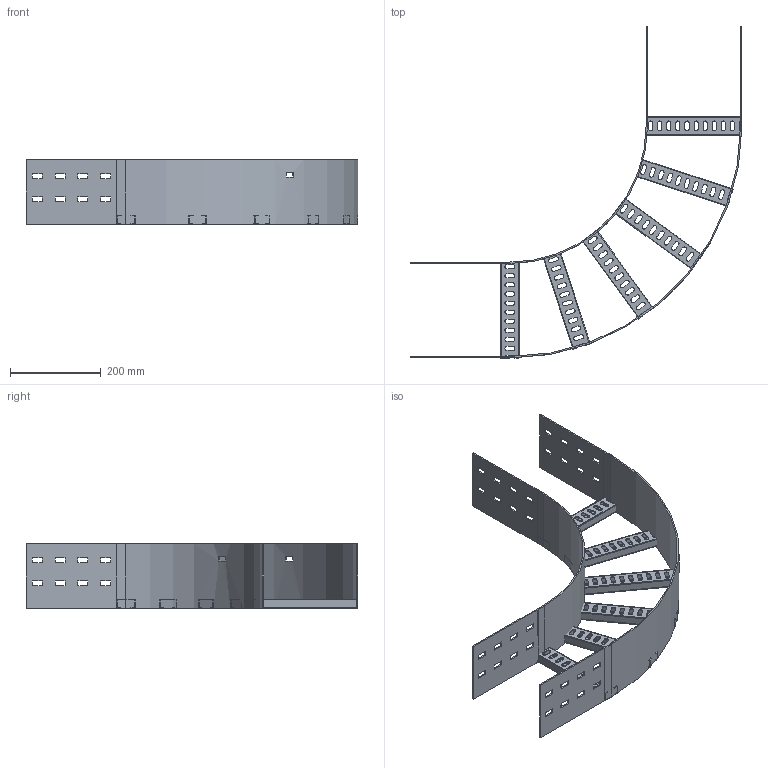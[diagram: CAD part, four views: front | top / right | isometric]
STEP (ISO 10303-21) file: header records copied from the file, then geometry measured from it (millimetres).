
FILE_DESCRIPTION(/* description */ ('','CAx-IF Rec.Pracs.---Representation and Presentation of Product Manufacturing Information (PMI)---4.0---2014-10-13'),/* implementation_level */ '2;1');
FILE_NAME(/* name */ 'Eurostrut_EFB150-90-200-300_Bend 90 for Cable Ladder ECL.step',/* time_stamp */ '2026-09-07T12:14:07+02:00',/* author */ (''),/* organization */ (''),/* preprocessor_version */ 'ST-DEVELOPER v20.1',/* originating_system */ 'Autodesk Revit 2027 27.2.0.39',/* authorisation */ '');
FILE_SCHEMA (('AP242_MANAGED_MODEL_BASED_3D_ENGINEERING_MIM_LF { 1 0 10303 442 2 1 4 }'));
Length unit declared in the file: millimetre
Products named in the file (6): TopLevelAssembly; Sweep; Extrusion; Extrusion_1; Eurostrut_Cable Ladder_Rung_Horizontal Bend_With slots; Eurostrut_Cable Ladder_Accessory End SWEEP
Assembly tree (8 placements, depth 2):
  TopLevelAssembly
    Sweep
    Extrusion
    Extrusion_1
    Eurostrut_Cable Ladder_Rung_Horizontal Bend_With slots
    Eurostrut_Cable Ladder_Accessory End SWEEP  x4
Bounding box: 731 x 731 x 142 mm (x, y, z)
Volume: 1047881.4 mm3; surface area: 840475.5 mm2
Topology: 16 solids, 16 shells, 568 faces, 1608 edges, 1072 vertices
Faces by surface type: plane 408, bspline 132, cylinder 28
Entity records: 18732 total; most frequent: CARTESIAN_POINT 6604, ORIENTED_EDGE 2568, DIRECTION 2284, EDGE_CURVE 1284, LINE 956, VECTOR 956, VERTEX_POINT 856, AXIS2_PLACEMENT_3D 664
